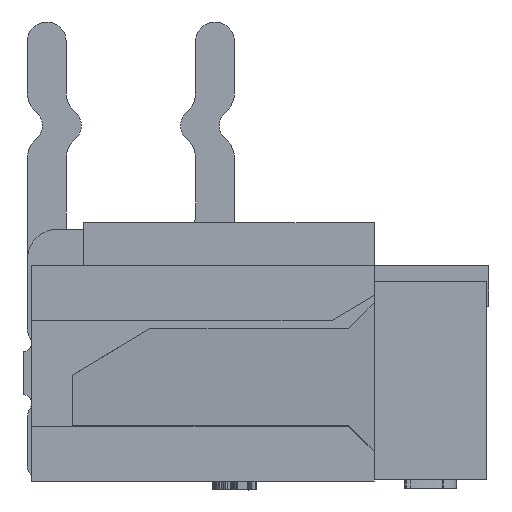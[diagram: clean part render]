
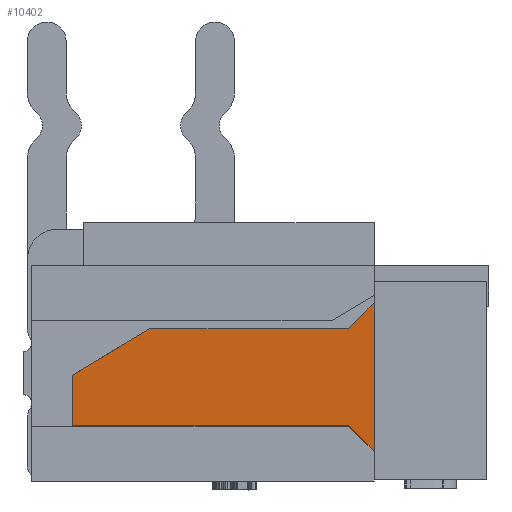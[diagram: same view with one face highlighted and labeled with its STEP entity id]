
A CAD part, left-side view. The second image highlights one B-rep face of the part: STEP entity #10402.
In plain terms, the highlighted planar face has unit normal (-0.994, 0.114, 0).
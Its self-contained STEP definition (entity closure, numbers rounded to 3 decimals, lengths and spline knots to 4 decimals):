
#757 = VECTOR ( 'NONE', #33095, 1000. ) ;
#775 = CARTESIAN_POINT ( 'NONE',  ( -8.1157, -3.07, -5.18 ) ) ;
#1048 = EDGE_CURVE ( 'NONE', #36985, #56372, #11331, .T. ) ;
#1838 = CARTESIAN_POINT ( 'NONE',  ( -8.1157, -3.07, -1.85 ) ) ;
#5722 = CARTESIAN_POINT ( 'NONE',  ( -7.75, 0.13, -5.18 ) ) ;
#6135 = VECTOR ( 'NONE', #64099, 1000. ) ;
#6581 = DIRECTION ( 'NONE',  ( 0.081, 0.705, 0.705 ) ) ;
#7363 = LINE ( 'NONE', #61277, #9148 ) ;
#7524 = ORIENTED_EDGE ( 'NONE', *, *, #35552, .F. ) ;
#7786 = LINE ( 'NONE', #20155, #64680 ) ;
#7981 = DIRECTION ( 'NONE',  ( -0.994, 0.114, 0. ) ) ;
#9148 = VECTOR ( 'NONE', #6581, 1000. ) ;
#9412 = CARTESIAN_POINT ( 'NONE',  ( -7.8246, -0.5224, -0.8785 ) ) ;
#10402 = ADVANCED_FACE ( 'NONE', ( #69432 ), #49495, .T. ) ;
#10874 = VERTEX_POINT ( 'NONE', #74131 ) ;
#11331 = LINE ( 'NONE', #60798, #63425 ) ;
#13877 = ORIENTED_EDGE ( 'NONE', *, *, #38962, .F. ) ;
#14039 = AXIS2_PLACEMENT_3D ( 'NONE', #775, #7981, #74619 ) ;
#14562 = EDGE_LOOP ( 'NONE', ( #71264, #7524, #23052, #46993, #32564, #13877, #59659 ) ) ;
#16821 = EDGE_CURVE ( 'NONE', #56372, #10874, #7786, .T. ) ;
#17330 = LINE ( 'NONE', #5722, #48770 ) ;
#19546 = CARTESIAN_POINT ( 'NONE',  ( -8.1157, -3.07, -1.85 ) ) ;
#19935 = LINE ( 'NONE', #19546, #757 ) ;
#20155 = CARTESIAN_POINT ( 'NONE',  ( -7.8631, -0.8594, -2.9406 ) ) ;
#23052 = ORIENTED_EDGE ( 'NONE', *, *, #55760, .T. ) ;
#27652 = VERTEX_POINT ( 'NONE', #1838 ) ;
#29878 = CARTESIAN_POINT ( 'NONE',  ( -7.75, 0.13, -1.85 ) ) ;
#29924 = EDGE_CURVE ( 'NONE', #27652, #44542, #19935, .T. ) ;
#31187 = VERTEX_POINT ( 'NONE', #46646 ) ;
#32541 = LINE ( 'NONE', #55320, #72976 ) ;
#32564 = ORIENTED_EDGE ( 'NONE', *, *, #1048, .F. ) ;
#33095 = DIRECTION ( 'NONE',  ( 0.114, 0.994, 0. ) ) ;
#35552 = EDGE_CURVE ( 'NONE', #31187, #27652, #7363, .T. ) ;
#36985 = VERTEX_POINT ( 'NONE', #42815 ) ;
#37519 = CARTESIAN_POINT ( 'NONE',  ( -7.75, 0.13, -1.27 ) ) ;
#38962 = EDGE_CURVE ( 'NONE', #52277, #36985, #58509, .T. ) ;
#42815 = CARTESIAN_POINT ( 'NONE',  ( -7.8529, -0.77, -0.73 ) ) ;
#44542 = VERTEX_POINT ( 'NONE', #29878 ) ;
#46646 = CARTESIAN_POINT ( 'NONE',  ( -8.15, -3.3699, -2.15 ) ) ;
#46993 = ORIENTED_EDGE ( 'NONE', *, *, #16821, .F. ) ;
#48770 = VECTOR ( 'NONE', #78371, 1000. ) ;
#48925 = DIRECTION ( 'NONE',  ( -0.081, -0.705, 0.705 ) ) ;
#49495 = PLANE ( 'NONE',  #14039 ) ;
#52277 = VERTEX_POINT ( 'NONE', #37519 ) ;
#55320 = CARTESIAN_POINT ( 'NONE',  ( -8.15, -3.37, -5.18 ) ) ;
#55760 = EDGE_CURVE ( 'NONE', #31187, #10874, #32541, .T. ) ;
#56055 = EDGE_CURVE ( 'NONE', #44542, #52277, #17330, .T. ) ;
#56372 = VERTEX_POINT ( 'NONE', #71908 ) ;
#58509 = LINE ( 'NONE', #9412, #6135 ) ;
#59659 = ORIENTED_EDGE ( 'NONE', *, *, #56055, .F. ) ;
#60798 = CARTESIAN_POINT ( 'NONE',  ( -8.1157, -3.07, -0.73 ) ) ;
#61277 = CARTESIAN_POINT ( 'NONE',  ( -8.3048, -4.7242, -3.5042 ) ) ;
#63425 = VECTOR ( 'NONE', #77976, 1000. ) ;
#64099 = DIRECTION ( 'NONE',  ( -0.098, -0.853, 0.512 ) ) ;
#64680 = VECTOR ( 'NONE', #48925, 1000. ) ;
#69432 = FACE_OUTER_BOUND ( 'NONE', #14562, .T. ) ;
#71264 = ORIENTED_EDGE ( 'NONE', *, *, #29924, .F. ) ;
#71908 = CARTESIAN_POINT ( 'NONE',  ( -8.1157, -3.07, -0.73 ) ) ;
#72976 = VECTOR ( 'NONE', #74452, 1000. ) ;
#74131 = CARTESIAN_POINT ( 'NONE',  ( -8.15, -3.3699, -0.43 ) ) ;
#74452 = DIRECTION ( 'NONE',  ( 0., 0., 1. ) ) ;
#74619 = DIRECTION ( 'NONE',  ( 0., 0., 1. ) ) ;
#77976 = DIRECTION ( 'NONE',  ( -0.114, -0.994, 0. ) ) ;
#78371 = DIRECTION ( 'NONE',  ( 0., 0., 1. ) ) ;
